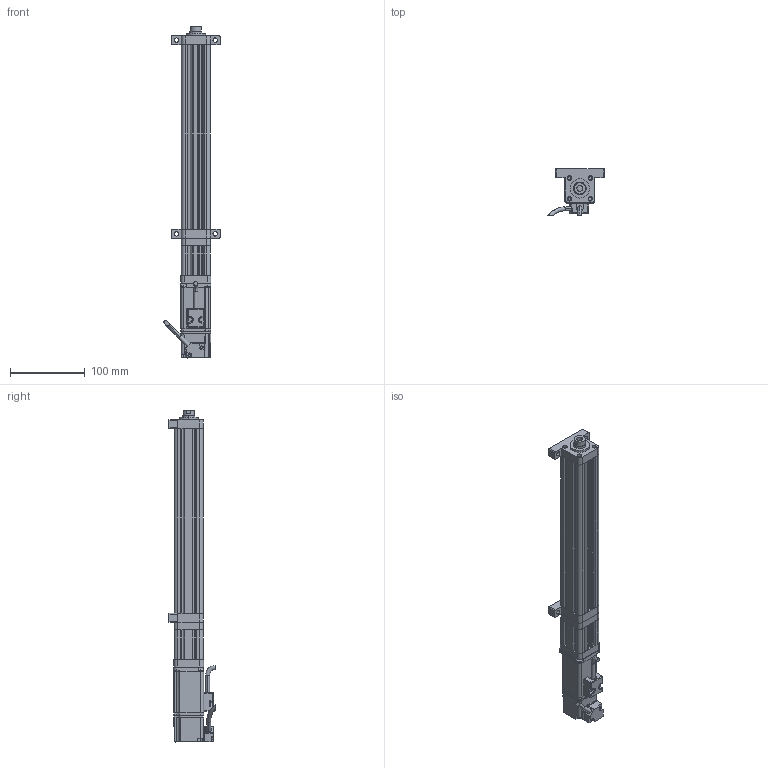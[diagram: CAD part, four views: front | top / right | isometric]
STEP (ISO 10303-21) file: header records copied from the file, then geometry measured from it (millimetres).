
FILE_DESCRIPTION (( 'STEP AP214' ), '1' );
FILE_NAME ('039-S200-D02-A-M2-C2-2.STEP', '2021-03-02T05:36:38', ( '' ), ( '' ), 'SwSTEP 2.0', 'SolidWorks 2018', '' );
FILE_SCHEMA (( 'AUTOMOTIVE_DESIGN' ));
Length unit declared in the file: millimetre
Products named in the file (9): ECMA-CX0401ES-40框號系列機種-100W低慣量系列; CMC039-QDB; 039-S200-D02-A-M2-C2-2; CMC039-HDB; CMC039-DT; CMC039-ZLLJB; CMC039-AZB; CMC039-GT; CMC039-DJZ
Assembly tree (8 placements, depth 2):
  039-S200-D02-A-M2-C2-2
    CMC039-GT
    CMC039-DT
    CMC039-ZLLJB
    CMC039-DJZ
    ECMA-CX0401ES-40框號系列機種-100W低慣量系列
    CMC039-AZB
    CMC039-HDB
    CMC039-QDB
Bounding box: 75.33 x 61.89 x 445.6 mm (x, y, z)
Volume: 476694.3 mm3; surface area: 155378.5 mm2
Topology: 8 solids, 16 shells, 735 faces, 1942 edges, 1223 vertices
Faces by surface type: cylinder 308, plane 306, bspline 84, cone 37
Entity records: 28972 total; most frequent: CARTESIAN_POINT 11393, ORIENTED_EDGE 3818, DIRECTION 3159, EDGE_CURVE 1909, VERTEX_POINT 1223, AXIS2_PLACEMENT_3D 1076, LINE 1007, VECTOR 1007
